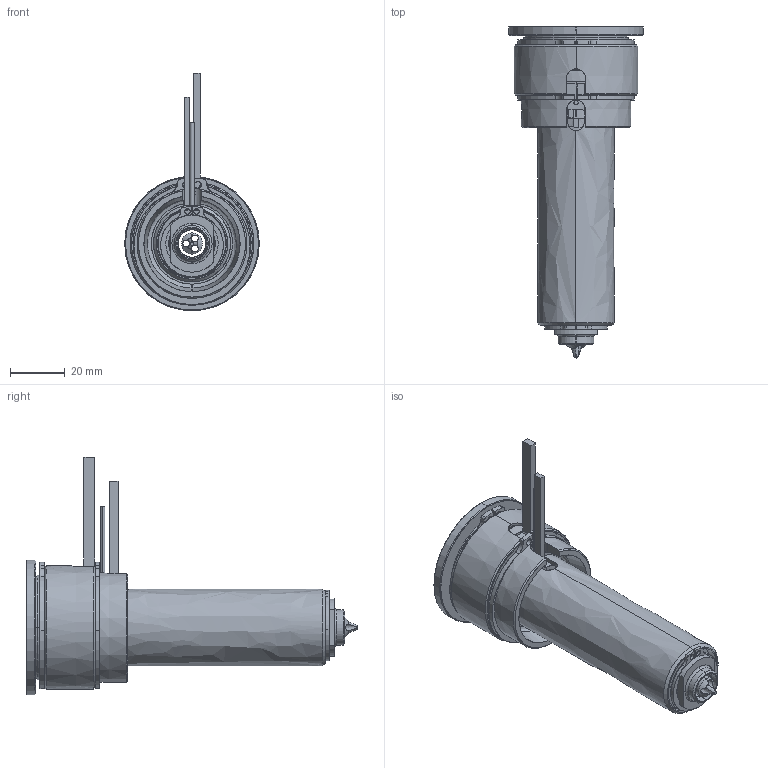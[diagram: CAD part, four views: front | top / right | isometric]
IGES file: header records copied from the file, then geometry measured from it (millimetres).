
Start section: SolidWorks IGES file using analytic representation for surfaces
Global section: file name: C:\Documents and Settings\ws-20\Desktop\TEM\UGEP4502-S-A-0 [Øf-1.31 ØC-10].IGS; native system: SolidWorks 2012; preprocessor: SolidWorks 2012; author: ws-20; date: 120424.090626; units: millimetre
Bounding box: 49 x 120.8 x 86.5 mm (x, y, z)
Surface area: 48410 mm2 (no closed solid volume)
Topology: 0 solids, 0 shells, 188 faces, 3579 edges, 3579 vertices
Faces by surface type: revolution 120, bspline 68
